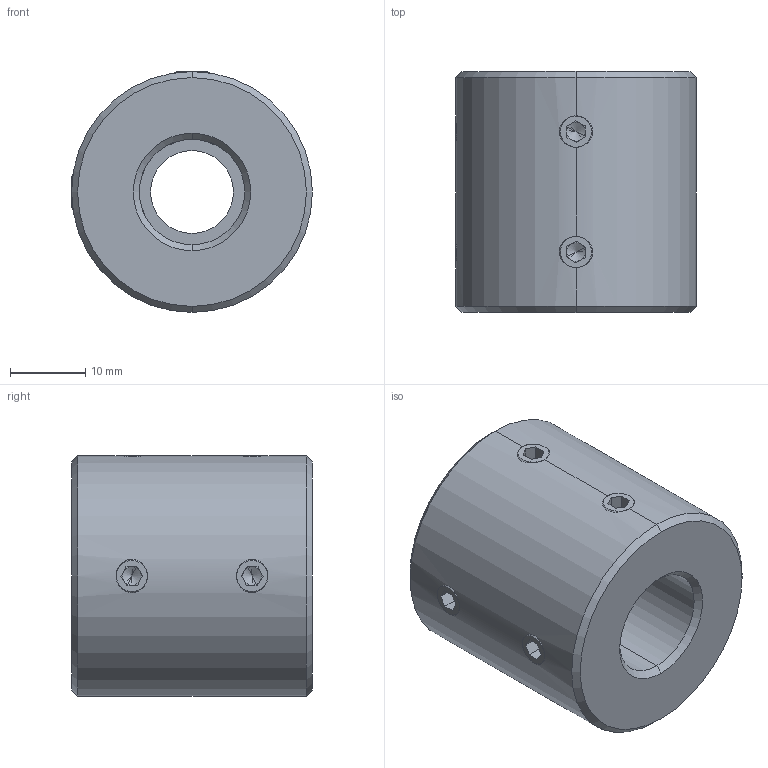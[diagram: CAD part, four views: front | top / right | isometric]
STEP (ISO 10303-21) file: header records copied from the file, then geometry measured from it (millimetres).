
FILE_DESCRIPTION (( 'STEP AP214' ), '1' );
FILE_NAME ('LL-D-D32L32-11-14½¨Ä£.STEP', '2022-07-22T11:30:35', ( '' ), ( '' ), 'SwSTEP 2.0', 'SolidWorks 2022', '' );
FILE_SCHEMA (( 'AUTOMOTIVE_DESIGN' ));
Length unit declared in the file: millimetre
Products named in the file (1): LL-D-D32L32-11-14膘耀
Bounding box: 32 x 32 x 32 mm (x, y, z)
Volume: 21511.8 mm3; surface area: 5962 mm2
Topology: 1 solids, 1 shells, 113 faces, 286 edges, 176 vertices
Faces by surface type: plane 59, cone 32, cylinder 22
Entity records: 3756 total; most frequent: CARTESIAN_POINT 1046, DIRECTION 558, ORIENTED_EDGE 556, EDGE_CURVE 278, AXIS2_PLACEMENT_3D 206, VERTEX_POINT 176, VECTOR 146, LINE 146
